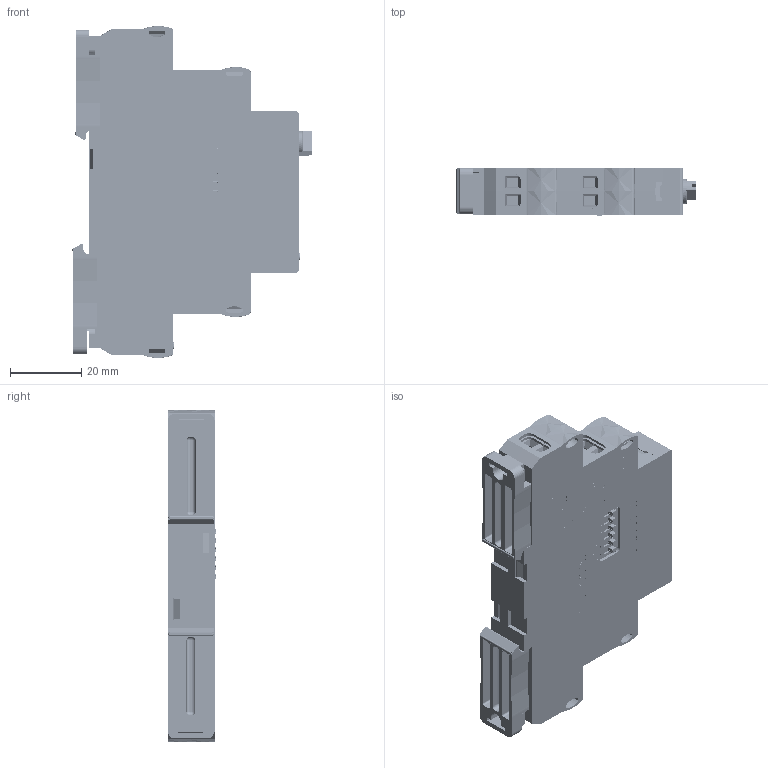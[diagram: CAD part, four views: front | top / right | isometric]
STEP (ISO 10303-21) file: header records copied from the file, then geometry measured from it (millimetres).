
FILE_DESCRIPTION(('STEP AP203'), '1');
FILE_NAME('ﾑ碚濱ﾐﾂﾎ-1ﾌ', '', ('UNSPECIFIED'), ('UNSPECIFIED'), 'ASCON STEP Converter 1.6', 'ASCON Math Kernel', '');
FILE_SCHEMA(('CONFIG_CONTROL_DESIGN'));
Length unit declared in the file: millimetre
Products named in the file (18): Case13-18-23mm_2step_Half_v01a_Build20140909_1552_6.5mm; Case13-18-23mm_2step_Lock_v01a_Build20140909_1552; Case13_Face; R-knob_2017_Hex2mm__Џｮ гｬｮｫзｭЁо
Assembly tree (22 placements, depth 3):
  (unnamed)
    Case13-18-23mm_2step_Half_v01a_Build20140909_1552_6.5mm
    Case13-18-23mm_2step_Lock_v01a_Build20140909_1552  x2
    Case13-18-23mm_2step_Half_v01a_Build20140909_1552_6.5mm
    Case13_Face
    (unnamed)  x4
      (unnamed)
    (unnamed)
    R-knob_2017_Hex2mm__Џｮ гｬｮｫзｭЁо
    (unnamed)
    (unnamed)
    (unnamed)
    (unnamed)
    (unnamed)
    (unnamed)
    (unnamed)
    (unnamed)
    (unnamed)
Bounding box: 67 x 13.6 x 92.99 mm (x, y, z)
Volume: 21831.6 mm3; surface area: 37854.2 mm2
Topology: 549 solids, 549 shells, 20381 faces, 57389 edges, 38103 vertices
Faces by surface type: plane 14494, extrusion 5234, cylinder 524, sphere 56, torus 36, cone 33, bspline 4
Full cylindrical faces by diameter (mm): 1.238 x8, 2.1 x2, 2.2 x2, 3.9 x8, 4.5 x1, 5 x1
Entity records: 736421 total; most frequent: CARTESIAN_POINT 164144, ORIENTED_EDGE 112304, DIRECTION 81322, EDGE_CURVE 56152, VECTOR 49828, LINE 44594, VERTEX_POINT 37357, EDGE_LOOP 20643
